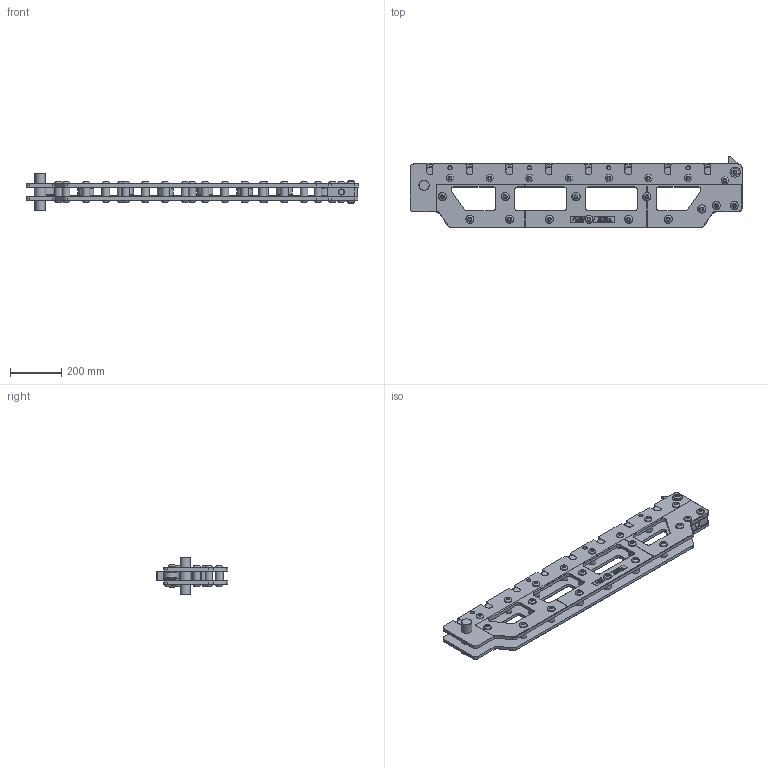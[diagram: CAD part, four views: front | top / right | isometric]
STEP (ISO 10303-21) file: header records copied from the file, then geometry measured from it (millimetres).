
FILE_DESCRIPTION(/* description */ ('CONSOLE PLATE'),/* implementation_level */ '2;1');
FILE_NAME(/* name */ 'C:\Users\jaccow\AppData\Local\Temp\Cadac\NetworkPub\step\FB950-950.iam.stp',/* time_stamp */ '2017-12-13T15:33:02+01:00',/* author */ ('Yue'),/* organization */ (''),/* preprocessor_version */ 'ST-DEVELOPER v16.1',/* originating_system */ 'Autodesk Inventor 2016',/* authorisation */ '');
FILE_SCHEMA (('AUTOMOTIVE_DESIGN { 1 0 10303 214 3 1 1 }'));
Products named in the file (16): FB960-101; FB951-026; FB952-026; FB763-186; CBE1625-0281E; CAE1160-1081A; CY148-055; FB765-044; FB767-104; FB769-104; FB963-690; FB771-101; EU120147-109; FB775-104; PP0489-996; FB950-950
Assembly tree (102 placements, depth 2):
  FB950-950
    FB960-101  x2
    FB951-026
    FB952-026
    FB763-186  x19
    CBE1625-0281E  x48
    CAE1160-1081A  x4
    CY148-055  x4
    FB765-044
    FB767-104
    FB769-104
    FB963-690
    FB771-101
    EU120147-109  x8
    FB775-104  x8
    PP0489-996  x2
Bounding box: 1297 x 280.92 x 145 mm (x, y, z)
Volume: 7980221.7 mm3; surface area: 2252688.6 mm2
Topology: 138 solids, 138 shells, 3870 faces, 9533 edges, 6254 vertices
Faces by surface type: plane 2233, bspline 666, cylinder 587, cone 192, torus 192
Full cylindrical faces by diameter (mm): 1.875 x8, 4.2 x8, 13.835 x26, 16 x48, 16.5 x4, 17 x56, 21.5 x1, 24.95 x1, 25 x2, 25.1 x1, 28 x48, 30 x39, 32 x24, 35 x8, 36.3 x8, 40 x6, 44.7 x8, 45 x1, 51 x32, 54.3 x16, 62 x8
Entity records: 83098 total; most frequent: CARTESIAN_POINT 23976, ORIENTED_EDGE 12722, DIRECTION 9254, EDGE_CURVE 6352, LINE 4510, VECTOR 4510, VERTEX_POINT 4302, EDGE_LOOP 2937
